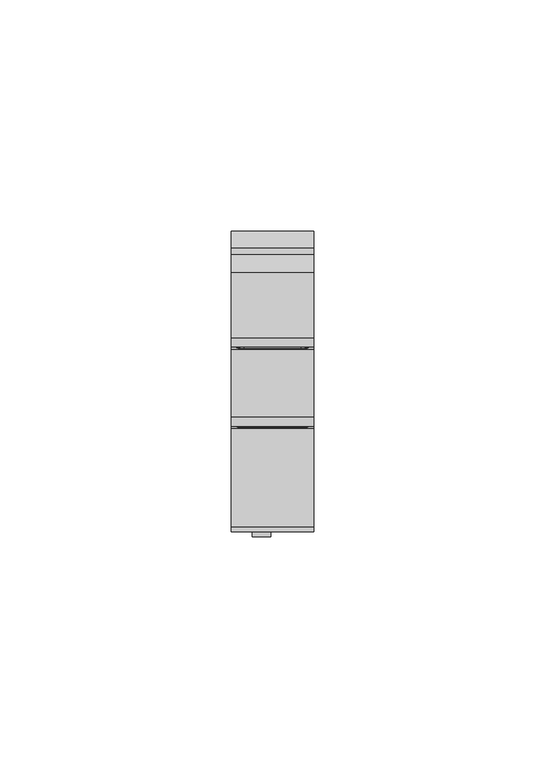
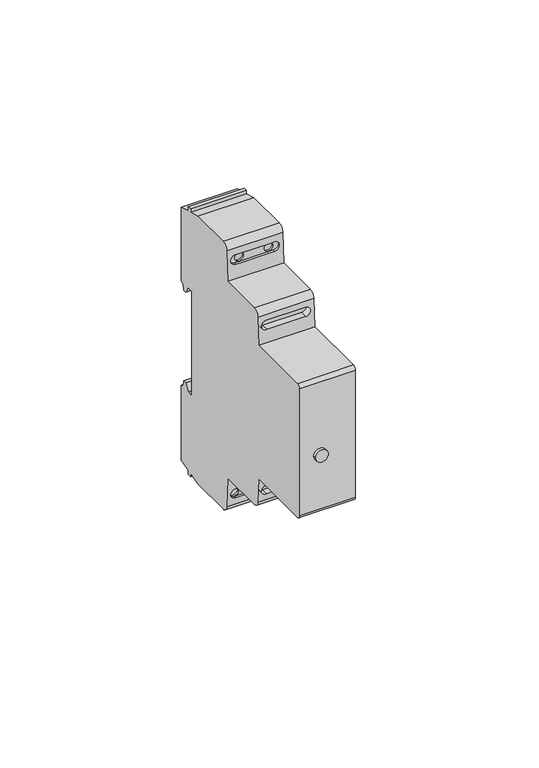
"""IFC4 building model written with IfcOpenShell, lengths in millimetres: proxy geometry, TDM_РЕЛЕ ИМПУЛЬСНОЕ (ОСВЕЩЕНИЕ) РИО : РИО-2 10А."""

from ifc_helpers import new_model, si_unit, point, frame, frame_2d, origin, place, context, project, spatial, polyline, circle_curve, ellipse_curve, trimmed, segment, composite_curve, outline, extrude, source, transform, mapped, element, save
from ifc_brep_helpers import plane_surface, cylinder_surface, revolved_surface, advanced_brep


def electrical_equipment_2618eebc(model_context):
    return source(origin(), model_context, "Body", "SolidModel", [
        extrude(outline(composite_curve([segment(trimmed(circle_curve(frame_2d((-3.3756041, -2.34375)), 2.0), [point((-3.3756041, -4.34375))], [point((-3.3756041, -0.34375))], False, "CARTESIAN"), True, "CONTINUOUS"), segment(trimmed(circle_curve(frame_2d((-3.3756041, -2.34375)), 2.0), [point((-3.3756041, -0.34375))], [point((-3.3756041, -4.34375))], False, "CARTESIAN"), True, "CONTINUOUS")], self_intersect=False)), frame((0.0, -28.520508, 0.0), z_axis=(0.0, 1.0, 0.0), x_axis=(0.0, 0.0, 1.0)), (0.0, 0.0, 1.0), 1.020508),
        extrude(outline(polyline([(14.1138713, 30.3732323), (14.1138713, 43.7501081), (16.6821204, 43.7501081), (16.6821204, -44.0625), (14.1138713, -44.0625), (14.1138713, 23.4004542), (-1.4600795, 23.4004542), (-1.4600795, 30.3732323), (14.1138713, 30.3732323)])), frame((-7.75, 0.0, 0.0), z_axis=(1.0, 0.0, 0.0), x_axis=(0.0, 1.0, 0.0)), (0.0, 0.0, 1.0), 15.5),
        advanced_brep(
        [(8.9, 31.7632568, 17.7057143), (8.9, 33.7632568, 17.7057143), (8.9, 35.0790621, 15.4266726), (8.9, 36.2042493, 15.4266726), (8.9, 36.5256071, 17.2491835), (8.9, 37.5, 17.8117495), (8.9, 37.5, 42.6031417), (8.9, 33.7858621, 43.5983419), (8.9, 33.7858621, 45.0), (8.9, 32.5, 45.0), (8.9, 32.5, 43.9428876), (8.9, 28.5548029, 45.0), (8.9, 14.5, 45.0), (8.9, 12.5, 43.0), (8.9, 11.9790691, 33.0600462), (8.9, -2.6020709, 33.0600462), (8.9, -4.5993299, 31.1647181), (8.9, -5.0796325, 22.0), (8.9, -26.3777313, 22.0), (8.9, -27.5, 20.8777313), (8.9, -27.5, -21.8875602), (8.9, -26.3875602, -23.0), (8.9, -5.0272247, -23.0), (8.9, -4.5993299, -31.1647181), (8.9, -2.6020709, -33.0600462), (8.9, 11.9790691, -33.0600462), (8.9, 12.5, -43.0), (8.9, 14.5, -45.0), (8.9, 28.5548029, -45.0), (8.9, 32.5, -43.9428876), (8.9, 32.5, -45.0), (8.9, 33.7858621, -45.0), (8.9, 33.7858621, -43.5983419), (8.9, 37.5, -42.6031417), (8.9, 37.5, -17.4003208), (8.9, 36.5256071, -16.8377548), (8.9, 36.2042493, -15.0152439), (8.9, 35.0790621, -15.0152439), (8.9, 33.7632568, -17.2942857), (8.9, 31.7632568, -17.2942857), (-8.9, 31.7632568, 17.7057143), (-8.9, 31.7632568, -17.2942857), (-8.9, 33.7632568, -17.2942857), (-8.9, 35.0790621, -15.0152439), (-8.9, 36.2042493, -15.0152439), (-8.9, 36.5256071, -16.8377548), (-8.9, 37.5, -17.4003208), (-8.9, 37.5, -42.6031417), (-8.9, 33.7858621, -43.5983419), (-8.9, 33.7858621, -45.0), (-8.9, 32.5, -45.0), (-8.9, 32.5, -43.9428876), (-8.9, 28.5548029, -45.0), (-8.9, 14.5, -45.0), (-8.9, 12.5, -43.0), (-8.9, 11.9790691, -33.0600462), (-8.9, -2.6020709, -33.0600462), (-8.9, -4.5993299, -31.1647181), (-8.9, -5.0272247, -23.0), (-8.9, -26.3875602, -23.0), (-8.9, -27.5, -21.8875602), (-8.9, -27.5, 20.8777313), (-8.9, -26.3777313, 22.0), (-8.9, -5.0796325, 22.0), (-8.9, -4.5993299, 31.1647181), (-8.9, -2.6020709, 33.0600462), (-8.9, 11.9790691, 33.0600462), (-8.9, 12.5, 43.0), (-8.9, 14.5, 45.0), (-8.9, 28.5548029, 45.0), (-8.9, 32.5, 43.9428876), (-8.9, 32.5, 45.0), (-8.9, 33.7858621, 45.0), (-8.9, 33.7858621, 43.5983419), (-8.9, 37.5, 42.6031417), (-8.9, 37.5, 17.8117495), (-8.9, 36.5256071, 17.2491835), (-8.9, 36.2042493, 15.4266726), (-8.9, 35.0790621, 15.4266726), (-8.9, 33.7632568, 17.7057143), (6.25, 13.0378948, 37.8135116), (6.25, 13.0378948, 40.8135116), (4.6875, 13.0378948, 40.8135116), (6.1875, 13.0378948, 39.3135116), (4.6875, 13.0378948, 37.8135116), (-6.25, 13.0378948, 40.8135116), (-6.25, 13.0378948, 37.8135116), (-4.6875, 13.0378948, 37.8135116), (-6.1875, 13.0378948, 39.3135116), (-4.6875, 13.0378948, 40.8135116), (-3.1875, 13.0378948, 39.3135116), (3.1875, 13.0378948, 39.3135116), (6.25, 13.0378948, -37.8135116), (-6.25, 13.0378948, -37.8135116), (-4.75, 13.0378948, -39.3135116), (-6.25, 13.0378948, -40.8135116), (6.25, 13.0378948, -40.8135116), (4.75, 13.0378948, -39.3135116), (6.25, 12.385411, 40.8135116), (6.25, 12.2281877, 37.8135116), (4.6875, 12.2281877, 37.8135116), (-4.6875, 12.2281877, 37.8135116), (-6.25, 12.2281877, 37.8135116), (-6.25, 12.385411, 40.8135116), (-4.6875, 12.385411, 40.8135116), (4.6875, 12.385411, 40.8135116), (6.25, -4.7022977, 29.1999754), (6.25, -4.8595211, 26.1999754), (-6.25, -4.8595211, 26.1999754), (-6.25, -4.7022977, 29.1999754), (-6.25, -4.8595211, -26.1999754), (6.25, -4.8595211, -26.1999754), (6.25, -4.7022977, -29.1999754), (-6.25, -4.7022977, -29.1999754), (-6.25, 12.2281877, -37.8135116), (6.25, 12.2281877, -37.8135116), (7.75, 12.3067993, -39.3135116), (6.25, 12.385411, -40.8135116), (-6.25, 12.385411, -40.8135116), (-7.75, 12.3067993, -39.3135116), (-7.75, 13.0378948, -39.3135116), (7.75, 13.0378948, -39.3135116), (-4.75, 15.2465164, -39.3135116), (-7.75, 15.2465164, -39.3135116), (4.75, 15.2465164, -39.3135116), (7.75, 15.2465164, -39.3135116), (-3.1875, 15.2465164, 39.3135116), (-6.1875, 15.2465164, 39.3135116), (3.1875, 15.2465164, 39.3135116), (6.1875, 15.2465164, 39.3135116), (6.25, -2.4542234, -26.1999754), (-6.25, -2.4542234, -26.1999754), (-6.25, -2.4542234, -29.1999754), (6.25, -2.4542234, -29.1999754), (6.25, -2.4542234, 26.1999754), (6.25, -2.4542234, 29.1999754), (-6.25, -2.4542234, 29.1999754), (-6.25, -2.4542234, 26.1999754)],
        [
            (0, 1),
            (1, 2),
            (2, 3),
            (3, 4),
            (4, 5),
            (5, 6),
            (6, 7),
            (7, 8),
            (8, 9),
            (9, 10),
            (10, 11),
            (11, 12),
            (12, 13, circle_curve(frame((8.9, 14.5, 43.0), z_axis=(1.0, 0.0, 0.0), x_axis=(0.0, -1.0, 0.0)), 2.0)),
            (13, 14),
            (14, 15),
            (15, 16, circle_curve(frame((8.9, -2.6020709, 31.0600462), z_axis=(1.0, 0.0, 0.0), x_axis=(0.0, -1.0, 0.0)), 2.0)),
            (16, 17),
            (17, 18),
            (18, 19, circle_curve(frame((8.9, -26.3777313, 20.8777313), z_axis=(1.0, 0.0, 0.0), x_axis=(0.0, -1.0, 0.0)), 1.1222687)),
            (19, 20),
            (20, 21, circle_curve(frame((8.9, -26.3875602, -21.8875602), z_axis=(1.0, 0.0, 0.0), x_axis=(0.0, -1.0, 0.0)), 1.1124398)),
            (21, 22),
            (22, 23),
            (23, 24, circle_curve(frame((8.9, -2.6020709, -31.0600462), z_axis=(1.0, 0.0, 0.0), x_axis=(0.0, -1.0, 0.0)), 2.0)),
            (24, 25),
            (25, 26),
            (26, 27, circle_curve(frame((8.9, 14.5, -43.0), z_axis=(1.0, 0.0, 0.0), x_axis=(0.0, -1.0, 0.0)), 2.0)),
            (27, 28),
            (28, 29),
            (29, 30),
            (30, 31),
            (31, 32),
            (32, 33),
            (33, 34),
            (34, 35),
            (35, 36),
            (36, 37),
            (37, 38),
            (38, 39),
            (39, 0),
            (40, 41),
            (41, 42),
            (42, 43),
            (43, 44),
            (44, 45),
            (45, 46),
            (46, 47),
            (47, 48),
            (48, 49),
            (49, 50),
            (50, 51),
            (51, 52),
            (52, 53),
            (53, 54, circle_curve(frame((-8.9, 14.5, -43.0), z_axis=(-1.0, 0.0, 0.0), x_axis=(0.0, -1.0, 0.0)), 2.0)),
            (54, 55),
            (55, 56),
            (56, 57, circle_curve(frame((-8.9, -2.6020709, -31.0600462), z_axis=(-1.0, 0.0, 0.0), x_axis=(0.0, -1.0, 0.0)), 2.0)),
            (57, 58),
            (58, 59),
            (59, 60, circle_curve(frame((-8.9, -26.3875602, -21.8875602), z_axis=(-1.0, 0.0, 0.0), x_axis=(0.0, -1.0, 0.0)), 1.1124398)),
            (60, 61),
            (61, 62, circle_curve(frame((-8.9, -26.3777313, 20.8777313), z_axis=(-1.0, 0.0, 0.0), x_axis=(0.0, -1.0, 0.0)), 1.1222687)),
            (62, 63),
            (63, 64),
            (64, 65, circle_curve(frame((-8.9, -2.6020709, 31.0600462), z_axis=(-1.0, 0.0, 0.0), x_axis=(0.0, -1.0, 0.0)), 2.0)),
            (65, 66),
            (66, 67),
            (67, 68, circle_curve(frame((-8.9, 14.5, 43.0), z_axis=(-1.0, 0.0, 0.0), x_axis=(0.0, -1.0, 0.0)), 2.0)),
            (68, 69),
            (69, 70),
            (70, 71),
            (71, 72),
            (72, 73),
            (73, 74),
            (74, 75),
            (75, 76),
            (76, 77),
            (77, 78),
            (78, 79),
            (79, 40),
            (80, 81, circle_curve(frame((6.25, 13.0378948, 39.3135116), z_axis=(0.0, -1.0, 0.0), x_axis=(1.0, 0.0, 0.0)), 1.5)),
            (81, 82),
            (82, 83, circle_curve(frame((4.6875, 13.0378948, 39.3135116), z_axis=(0.0, 1.0, 0.0), x_axis=(1.0, 0.0, 0.0)), 1.5)),
            (83, 84, circle_curve(frame((4.6875, 13.0378948, 39.3135116), z_axis=(0.0, 1.0, 0.0), x_axis=(1.0, 0.0, 0.0)), 1.5)),
            (84, 80),
            (85, 86, circle_curve(frame((-6.25, 13.0378948, 39.3135116), z_axis=(0.0, -1.0, 0.0), x_axis=(-1.0, 0.0, 0.0)), 1.5)),
            (86, 87),
            (87, 88, circle_curve(frame((-4.6875, 13.0378948, 39.3135116), z_axis=(0.0, 1.0, 0.0), x_axis=(-1.0, 0.0, 0.0)), 1.5)),
            (88, 89, circle_curve(frame((-4.6875, 13.0378948, 39.3135116), z_axis=(0.0, 1.0, 0.0), x_axis=(-1.0, 0.0, 0.0)), 1.5)),
            (89, 85),
            (82, 89),
            (89, 90, circle_curve(frame((-4.6875, 13.0378948, 39.3135116), z_axis=(0.0, 1.0, 0.0), x_axis=(-1.0, 0.0, 0.0)), 1.5)),
            (90, 87, circle_curve(frame((-4.6875, 13.0378948, 39.3135116), z_axis=(0.0, 1.0, 0.0), x_axis=(-1.0, 0.0, 0.0)), 1.5)),
            (87, 84),
            (84, 91, circle_curve(frame((4.6875, 13.0378948, 39.3135116), z_axis=(0.0, 1.0, 0.0), x_axis=(1.0, 0.0, 0.0)), 1.5)),
            (91, 82, circle_curve(frame((4.6875, 13.0378948, 39.3135116), z_axis=(0.0, 1.0, 0.0), x_axis=(1.0, 0.0, 0.0)), 1.5)),
            (92, 93),
            (93, 94, circle_curve(frame((-6.25, 13.0378948, -39.3135116), z_axis=(0.0, 1.0, 0.0), x_axis=(-1.0, 0.0, 0.0)), 1.5)),
            (94, 95, circle_curve(frame((-6.25, 13.0378948, -39.3135116), z_axis=(0.0, 1.0, 0.0), x_axis=(-1.0, 0.0, 0.0)), 1.5)),
            (95, 96),
            (96, 97, circle_curve(frame((6.25, 13.0378948, -39.3135116), z_axis=(0.0, 1.0, 0.0), x_axis=(1.0, 0.0, 0.0)), 1.5)),
            (97, 92, circle_curve(frame((6.25, 13.0378948, -39.3135116), z_axis=(0.0, 1.0, 0.0), x_axis=(1.0, 0.0, 0.0)), 1.5)),
            (0, 40),
            (79, 1),
            (78, 2),
            (77, 3),
            (76, 4),
            (75, 5),
            (74, 6),
            (11, 69),
            (68, 12),
            (67, 13),
            (66, 14),
            (98, 99, ellipse_curve(frame((6.25, 12.3067993, 39.3135116), z_axis=(0.0, 0.9986295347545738, -0.052335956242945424), x_axis=(0.0, -0.052335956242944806, -0.9986295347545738)), 1.5020585, 1.5)),
            (99, 100),
            (100, 101),
            (101, 102),
            (102, 103, ellipse_curve(frame((-6.25, 12.3067993, 39.3135116), z_axis=(0.0, 0.9986295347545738, -0.052335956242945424), x_axis=(0.0, -0.052335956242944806, -0.9986295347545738)), 1.5020585, 1.5)),
            (103, 104),
            (104, 105),
            (105, 98),
            (65, 15),
            (64, 16),
            (63, 17),
            (106, 107, ellipse_curve(frame((6.25, -4.7809094, 27.6999754), z_axis=(0.0, 0.9986295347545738, -0.052335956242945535), x_axis=(0.0, -0.0523359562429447, -0.9986295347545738)), 1.5020585, 1.5)),
            (107, 108),
            (108, 109, ellipse_curve(frame((-6.25, -4.7809094, 27.6999754), z_axis=(0.0, 0.9986295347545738, -0.052335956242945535), x_axis=(0.0, -0.0523359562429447, -0.9986295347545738)), 1.5020585, 1.5)),
            (109, 106),
            (62, 18),
            (61, 19),
            (60, 20),
            (21, 59),
            (58, 22),
            (57, 23),
            (110, 111),
            (111, 112, ellipse_curve(frame((6.25, -4.7809094, -27.6999754), z_axis=(0.0, 0.9986295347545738, 0.05233595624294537), x_axis=(0.0, -0.05233595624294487, 0.9986295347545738)), 1.5020585, 1.5)),
            (112, 113),
            (113, 110, ellipse_curve(frame((-6.25, -4.7809094, -27.6999754), z_axis=(0.0, 0.9986295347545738, 0.05233595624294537), x_axis=(0.0, -0.05233595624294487, 0.9986295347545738)), 1.5020585, 1.5)),
            (56, 24),
            (55, 25),
            (54, 26),
            (114, 115),
            (115, 116, ellipse_curve(frame((6.25, 12.3067993, -39.3135116), z_axis=(0.0, 0.9986295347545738, 0.05233595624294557), x_axis=(0.0, -0.05233595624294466, 0.9986295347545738)), 1.5020585, 1.5)),
            (116, 117, ellipse_curve(frame((6.25, 12.3067993, -39.3135116), z_axis=(0.0, 0.9986295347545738, 0.05233595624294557), x_axis=(0.0, -0.05233595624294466, 0.9986295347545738)), 1.5020585, 1.5)),
            (117, 118),
            (118, 119, ellipse_curve(frame((-6.25, 12.3067993, -39.3135116), z_axis=(0.0, 0.9986295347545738, 0.05233595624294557), x_axis=(0.0, -0.05233595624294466, 0.9986295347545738)), 1.5020585, 1.5)),
            (119, 114, ellipse_curve(frame((-6.25, 12.3067993, -39.3135116), z_axis=(0.0, 0.9986295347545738, 0.05233595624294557), x_axis=(0.0, -0.05233595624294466, 0.9986295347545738)), 1.5020585, 1.5)),
            (53, 27),
            (52, 28),
            (30, 50),
            (49, 31),
            (48, 32),
            (51, 29),
            (33, 47),
            (46, 34),
            (45, 35),
            (44, 36),
            (43, 37),
            (42, 38),
            (41, 39),
            (92, 115),
            (114, 93),
            (118, 95),
            (95, 120, circle_curve(frame((-6.25, 13.0378948, -39.3135116), z_axis=(0.0, 1.0, 0.0), x_axis=(-1.0, 0.0, 0.0)), 1.5)),
            (120, 93, circle_curve(frame((-6.25, 13.0378948, -39.3135116), z_axis=(0.0, 1.0, 0.0), x_axis=(-1.0, 0.0, 0.0)), 1.5)),
            (117, 96),
            (92, 121, circle_curve(frame((6.25, 13.0378948, -39.3135116), z_axis=(0.0, 1.0, 0.0), x_axis=(1.0, 0.0, 0.0)), 1.5)),
            (121, 96, circle_curve(frame((6.25, 13.0378948, -39.3135116), z_axis=(0.0, 1.0, 0.0), x_axis=(1.0, 0.0, 0.0)), 1.5)),
            (80, 99),
            (98, 81),
            (103, 85),
            (102, 86),
            (122, 123, circle_curve(frame((-6.25, 15.2465164, -39.3135116), z_axis=(0.0, -1.0, 0.0), x_axis=(-1.0, 0.0, 0.0)), 1.5)),
            (123, 122, circle_curve(frame((-6.25, 15.2465164, -39.3135116), z_axis=(0.0, -1.0, 0.0), x_axis=(-1.0, 0.0, 0.0)), 1.5)),
            (124, 125, circle_curve(frame((6.25, 15.2465164, -39.3135116), z_axis=(0.0, -1.0, 0.0), x_axis=(1.0, 0.0, 0.0)), 1.5)),
            (125, 124, circle_curve(frame((6.25, 15.2465164, -39.3135116), z_axis=(0.0, -1.0, 0.0), x_axis=(1.0, 0.0, 0.0)), 1.5)),
            (126, 127, circle_curve(frame((-4.6875, 15.2465164, 39.3135116), z_axis=(0.0, -1.0, 0.0), x_axis=(-1.0, 0.0, 0.0)), 1.5)),
            (127, 126, circle_curve(frame((-4.6875, 15.2465164, 39.3135116), z_axis=(0.0, -1.0, 0.0), x_axis=(-1.0, 0.0, 0.0)), 1.5)),
            (128, 129, circle_curve(frame((4.6875, 15.2465164, 39.3135116), z_axis=(0.0, -1.0, 0.0), x_axis=(1.0, 0.0, 0.0)), 1.5)),
            (129, 128, circle_curve(frame((4.6875, 15.2465164, 39.3135116), z_axis=(0.0, -1.0, 0.0), x_axis=(1.0, 0.0, 0.0)), 1.5)),
            (122, 94),
            (120, 123),
            (124, 97),
            (121, 125),
            (126, 90),
            (88, 127),
            (128, 91),
            (83, 129),
            (73, 7),
            (72, 8),
            (71, 9),
            (70, 10),
            (130, 131),
            (131, 132, circle_curve(frame((-6.25, -2.4542234, -27.6999754), z_axis=(0.0, -1.0, 0.0), x_axis=(-1.0, 0.0, 0.0)), 1.5)),
            (132, 133),
            (133, 130, circle_curve(frame((6.25, -2.4542234, -27.6999754), z_axis=(0.0, -1.0, 0.0), x_axis=(1.0, 0.0, 0.0)), 1.5)),
            (134, 135, circle_curve(frame((6.25, -2.4542234, 27.6999754), z_axis=(0.0, -1.0, 0.0), x_axis=(1.0, 0.0, 0.0)), 1.5)),
            (135, 136),
            (136, 137, circle_curve(frame((-6.25, -2.4542234, 27.6999754), z_axis=(0.0, -1.0, 0.0), x_axis=(-1.0, 0.0, 0.0)), 1.5)),
            (137, 134),
            (130, 111),
            (110, 131),
            (113, 132),
            (112, 133),
            (134, 107),
            (106, 135),
            (109, 136),
            (108, 137),
        ],
        [
            plane_surface(frame((8.9, 31.7632568, 17.7057143), z_axis=(1.0, 0.0, 0.0), x_axis=(0.0, 1.0, 0.0))),
            plane_surface(frame((-8.9, 31.7632568, 17.7057143), z_axis=(-1.0, 0.0, 0.0), x_axis=(0.0, -1.0, 0.0))),
            plane_surface(frame((-7.75, 13.0378948, -37.8135116), z_axis=(0.0, -1.0, 0.0), x_axis=(1.0, 0.0, 0.0))),
            plane_surface(frame((8.9, 31.7632568, 17.7057143), z_axis=(0.0, 0.0, -1.0), x_axis=(-1.0, 0.0, 0.0))),
            plane_surface(frame((8.9, 33.7632568, 17.7057143), z_axis=(0.0, -0.8660254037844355, -0.5000000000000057), x_axis=(-1.0, 0.0, 0.0))),
            plane_surface(frame((8.9, 35.0790621, 15.4266726), z_axis=(0.0, 0.0, -1.0), x_axis=(-1.0, 0.0, 0.0))),
            plane_surface(frame((8.9, 36.2042493, 15.4266726), z_axis=(0.0, 0.984807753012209, -0.17364817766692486), x_axis=(-1.0, 0.0, 0.0))),
            plane_surface(frame((8.9, 36.5256071, 17.2491835), z_axis=(0.0, 0.5000000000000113, -0.8660254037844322), x_axis=(-1.0, 0.0, 0.0))),
            plane_surface(frame((8.9, 37.5, 17.8117495), z_axis=(0.0, 1.0, 0.0), x_axis=(-1.0, 0.0, 0.0))),
            plane_surface(frame((8.9, 28.5548029, 45.0), z_axis=(0.0, 0.0, 1.0), x_axis=(-1.0, 0.0, 0.0))),
            cylinder_surface(frame((-8.9, 14.5, 43.0), z_axis=(1.0, 0.0, 0.0), x_axis=(0.0, -1.0, 0.0)), 2.0),
            plane_surface(frame((8.9, 12.5, 43.0), z_axis=(0.0, -0.9986295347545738, 0.052335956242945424), x_axis=(-1.0, 0.0, 0.0))),
            plane_surface(frame((8.9, 11.9790691, 33.0600462), z_axis=(0.0, 0.0, 1.0), x_axis=(-1.0, 0.0, 0.0))),
            cylinder_surface(frame((-8.9, -2.6020709, 31.0600462), z_axis=(1.0, 0.0, 0.0), x_axis=(0.0, -1.0, 0.0)), 2.0),
            plane_surface(frame((8.9, -4.5993299, 31.1647181), z_axis=(0.0, -0.9986295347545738, 0.052335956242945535), x_axis=(-1.0, 0.0, 0.0))),
            plane_surface(frame((8.9, -5.0796325, 22.0), z_axis=(0.0, 0.0, 1.0), x_axis=(-1.0, 0.0, 0.0))),
            cylinder_surface(frame((-8.9, -26.3777313, 20.8777313), z_axis=(1.0, 0.0, 0.0), x_axis=(0.0, -1.0, 0.0)), 1.1222687),
            plane_surface(frame((8.9, -27.5, 20.8777313), z_axis=(0.0, -1.0, 0.0), x_axis=(-1.0, 0.0, 0.0))),
            plane_surface(frame((8.9, -26.3875602, -23.0), z_axis=(0.0, 0.0, -1.0), x_axis=(-1.0, 0.0, 0.0))),
            plane_surface(frame((8.9, -5.0272247, -23.0), z_axis=(0.0, -0.9986295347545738, -0.05233595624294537), x_axis=(-1.0, 0.0, 0.0))),
            cylinder_surface(frame((-8.9, -2.6020709, -31.0600462), z_axis=(1.0, 0.0, 0.0), x_axis=(0.0, -1.0, 0.0)), 2.0),
            plane_surface(frame((8.9, -2.6020709, -33.0600462), z_axis=(0.0, 0.0, -1.0), x_axis=(-1.0, 0.0, 0.0))),
            plane_surface(frame((8.9, 11.9790691, -33.0600462), z_axis=(0.0, -0.9986295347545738, -0.05233595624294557), x_axis=(-1.0, 0.0, 0.0))),
            cylinder_surface(frame((-8.9, 14.5, -43.0), z_axis=(1.0, 0.0, 0.0), x_axis=(0.0, -1.0, 0.0)), 2.0),
            plane_surface(frame((8.9, 14.5, -45.0), z_axis=(0.0, 0.0, -1.0), x_axis=(-1.0, 0.0, 0.0))),
            plane_surface(frame((8.9, 32.5, -45.0), z_axis=(0.0, 0.0, -1.0), x_axis=(-1.0, 0.0, 0.0))),
            plane_surface(frame((8.9, 33.7858621, -45.0), z_axis=(0.0, 1.0, 0.0), x_axis=(-1.0, 0.0, 0.0))),
            plane_surface(frame((8.9, 28.5548029, -45.0), z_axis=(0.0, 0.25881904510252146, -0.9659258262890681), x_axis=(-1.0, 0.0, 0.0))),
            plane_surface(frame((8.9, 37.5, -42.6031417), z_axis=(0.0, 1.0, 0.0), x_axis=(-1.0, 0.0, 0.0))),
            plane_surface(frame((8.9, 37.5, -17.4003208), z_axis=(0.0, 0.5000000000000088, 0.8660254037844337), x_axis=(-1.0, 0.0, 0.0))),
            plane_surface(frame((8.9, 36.5256071, -16.8377548), z_axis=(0.0, 0.9848077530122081, 0.17364817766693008), x_axis=(-1.0, 0.0, 0.0))),
            plane_surface(frame((8.9, 36.2042493, -15.0152439), z_axis=(0.0, 0.0, 1.0), x_axis=(-1.0, 0.0, 0.0))),
            plane_surface(frame((8.9, 35.0790621, -15.0152439), z_axis=(0.0, -0.8660254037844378, 0.5000000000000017), x_axis=(-1.0, 0.0, 0.0))),
            plane_surface(frame((8.9, 33.7632568, -17.2942857), z_axis=(0.0, 0.0, 1.0), x_axis=(-1.0, 0.0, 0.0))),
            plane_surface(frame((8.9, 31.7632568, -17.2942857), z_axis=(0.0, 1.0, 0.0), x_axis=(-1.0, 0.0, 0.0))),
            cylinder_surface(frame((-8.9, -26.3875602, -21.8875602), z_axis=(1.0, 0.0, 0.0), x_axis=(0.0, -1.0, 0.0)), 1.1124398),
            plane_surface(frame((6.25, 0.0, -37.8135116), z_axis=(0.0, 0.0, -1.0), x_axis=(0.0, 1.0, 0.0))),
            revolved_surface(polyline([(-7.75, 12.228187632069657, -39.3135116), (-7.75, 13.0378948, -39.3135116)]), (-6.25, 13.0378948, -39.3135116), (0.0, -1.0, 0.0)),
            plane_surface(frame((-6.25, 0.0, -40.8135116), z_axis=(0.0, 0.0, 1.0), x_axis=(0.0, 1.0, 0.0))),
            revolved_surface(polyline([(7.75, 12.228187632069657, -39.3135116), (7.75, 13.0378948, -39.3135116)]), (6.25, 13.0378948, -39.3135116), (0.0, -1.0, 0.0)),
            revolved_surface(polyline([(7.75, 12.228187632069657, 39.3135116), (7.75, 13.0378948, 39.3135116)]), (6.25, 0.0, 39.3135116), (0.0, -1.0, 0.0)),
            plane_surface(frame((6.25, 0.0, 40.8135116), z_axis=(0.0, 0.0, -1.0), x_axis=(0.0, 1.0, 0.0))),
            revolved_surface(polyline([(-7.75, 12.228187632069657, 39.3135116), (-7.75, 13.0378948, 39.3135116)]), (-6.25, 0.0, 39.3135116), (0.0, -1.0, 0.0)),
            plane_surface(frame((-6.25, 0.0, 37.8135116), z_axis=(0.0, 0.0, 1.0), x_axis=(0.0, 1.0, 0.0))),
            plane_surface(frame((-7.75, 15.2465164, -39.3135116), z_axis=(0.0, -1.0, 0.0), x_axis=(0.0, 0.0, 1.0))),
            revolved_surface(polyline([(-7.75, 13.0378948, -39.3135116), (-7.75, 15.2465164, -39.3135116)]), (-6.25, 15.2465164, -39.3135116), (0.0, -1.0, 0.0)),
            revolved_surface(polyline([(7.75, 13.0378948, -39.3135116), (7.75, 15.2465164, -39.3135116)]), (6.25, 0.0, -39.3135116), (0.0, -1.0, 0.0)),
            revolved_surface(polyline([(-6.1875, 13.0378948, 39.3135116), (-6.1875, 15.2465164, 39.3135116)]), (-4.6875, 0.0, 39.3135116), (0.0, -1.0, 0.0)),
            revolved_surface(polyline([(6.1875, 13.0378948, 39.3135116), (6.1875, 15.2465164, 39.3135116)]), (4.6875, 0.0, 39.3135116), (0.0, -1.0, 0.0)),
            plane_surface(frame((8.9, 32.5, -43.9428876), z_axis=(0.0, -1.0, 0.0), x_axis=(-1.0, 0.0, 0.0))),
            plane_surface(frame((8.9, 33.7858621, -43.5983419), z_axis=(0.0, 0.25881904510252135, -0.9659258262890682), x_axis=(-1.0, 0.0, 0.0))),
            plane_surface(frame((8.9, 37.5, 42.6031417), z_axis=(0.0, 0.2588190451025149, 0.96592582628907), x_axis=(-1.0, 0.0, 0.0))),
            plane_surface(frame((8.9, 33.7858621, 43.5983419), z_axis=(0.0, 1.0, 0.0), x_axis=(-1.0, 0.0, 0.0))),
            plane_surface(frame((8.9, 33.7858621, 45.0), z_axis=(0.0, 0.0, 1.0), x_axis=(-1.0, 0.0, 0.0))),
            plane_surface(frame((8.9, 32.5, 45.0), z_axis=(0.0, -1.0, 0.0), x_axis=(-1.0, 0.0, 0.0))),
            plane_surface(frame((8.9, 32.5, 43.9428876), z_axis=(0.0, 0.25881904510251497, 0.9659258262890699), x_axis=(-1.0, 0.0, 0.0))),
            plane_surface(frame((-7.75, -2.4542234, -26.1999754), z_axis=(0.0, -1.0, 0.0), x_axis=(1.0, 0.0, 0.0))),
            plane_surface(frame((6.25, -7.6444842, -26.1999754), z_axis=(0.0, 0.0, -1.0), x_axis=(0.0, 1.0, 0.0))),
            revolved_surface(polyline([(-7.75, -4.8595211, -27.6999754), (-7.75, -2.4542234, -27.6999754)]), (-6.25, -2.4542234, -27.6999754), (0.0, -1.0, 0.0)),
            plane_surface(frame((-6.25, -7.6444842, -29.1999754), z_axis=(0.0, 0.0, 1.0), x_axis=(0.0, 1.0, 0.0))),
            revolved_surface(polyline([(7.75, -4.8595211, -27.6999754), (7.75, -2.4542234, -27.6999754)]), (6.25, -2.4542234, -27.6999754), (0.0, -1.0, 0.0)),
            revolved_surface(polyline([(7.75, -4.8595211, 27.6999754), (7.75, -2.4542234, 27.6999754)]), (6.25, 0.0, 27.6999754), (0.0, -1.0, 0.0)),
            plane_surface(frame((6.25, -7.6444842, 29.1999754), z_axis=(0.0, 0.0, -1.0), x_axis=(0.0, 1.0, 0.0))),
            revolved_surface(polyline([(-7.75, -4.8595211, 27.6999754), (-7.75, -2.4542234, 27.6999754)]), (-6.25, 0.0, 27.6999754), (0.0, -1.0, 0.0)),
            plane_surface(frame((-6.25, -7.6444842, 26.1999754), z_axis=(0.0, 0.0, 1.0), x_axis=(0.0, 1.0, 0.0))),
        ],
        [
            (0, [[1, 2, 3, 4, 5, 6, 7, 8, 9, 10, 11, 12, 13, 14, 15, 16, 17, 18, 19, 20, 21, 22, 23, 24, 25, 26, 27, 28, 29, 30, 31, 32, 33, 34, 35, 36, 37, 38, 39, 40]]),
            (1, [[41, 42, 43, 44, 45, 46, 47, 48, 49, 50, 51, 52, 53, 54, 55, 56, 57, 58, 59, 60, 61, 62, 63, 64, 65, 66, 67, 68, 69, 70, 71, 72, 73, 74, 75, 76, 77, 78, 79, 80]]),
            (2, [[81, 82, 83, 84, 85]]),
            (2, [[86, 87, 88, 89, 90]]),
            (2, [[91, 92, 93, 94, 95, 96]]),
            (2, [[97, 98, 99, 100, 101, 102]]),
            (3, [[-1, 103, -80, 104]]),
            (4, [[-2, -104, -79, 105]]),
            (5, [[-3, -105, -78, 106]]),
            (6, [[-4, -106, -77, 107]]),
            (7, [[-5, -107, -76, 108]]),
            (8, [[-6, -108, -75, 109]]),
            (9, [[-12, 110, -69, 111]]),
            (10, [[-13, -111, -68, 112]]),
            (11, [[-14, -112, -67, 113], [114, 115, 116, 117, 118, 119, 120, 121]]),
            (12, [[-15, -113, -66, 122]]),
            (13, [[-16, -122, -65, 123]]),
            (14, [[-17, -123, -64, 124], [125, 126, 127, 128]]),
            (15, [[-18, -124, -63, 129]]),
            (16, [[-19, -129, -62, 130]]),
            (17, [[-20, -130, -61, 131]]),
            (18, [[-22, 132, -59, 133]]),
            (19, [[-23, -133, -58, 134], [135, 136, 137, 138]]),
            (20, [[-24, -134, -57, 139]]),
            (21, [[-25, -139, -56, 140]]),
            (22, [[-26, -140, -55, 141], [142, 143, 144, 145, 146, 147]]),
            (23, [[-27, -141, -54, 148]]),
            (24, [[-28, -148, -53, 149]]),
            (25, [[-31, 150, -50, 151]]),
            (26, [[-32, -151, -49, 152]]),
            (27, [[-29, -149, -52, 153]]),
            (28, [[-34, 154, -47, 155]]),
            (29, [[-35, -155, -46, 156]]),
            (30, [[-36, -156, -45, 157]]),
            (31, [[-37, -157, -44, 158]]),
            (32, [[-38, -158, -43, 159]]),
            (33, [[-39, -159, -42, 160]]),
            (34, [[-40, -160, -41, -103]]),
            (35, [[-21, -131, -60, -132]]),
            (36, [[-97, 161, -142, 162]]),
            (37, [[-162, -147, -146, 163, 164, 165]]),
            (38, [[-100, -163, -145, 166]]),
            (39, [[-161, 167, 168, -166, -144, -143]]),
            (40, [[-81, 169, -114, 170]]),
            (41, [[-170, -121, -120, -119, 171, -90, -91, -82]]),
            (42, [[-86, -171, -118, 172]]),
            (43, [[-169, -85, -94, -87, -172, -117, -116, -115]]),
            (44, [[173, 174]]),
            (44, [[175, 176]]),
            (44, [[177, 178]]),
            (44, [[179, 180]]),
            (45, [[-173, 181, -98, -165, 182]]),
            (45, [[-174, -182, -164, -99, -181]]),
            (46, [[-175, 183, -101, -168, 184]]),
            (46, [[-176, -184, -167, -102, -183]]),
            (47, [[-177, 185, -92, -89, 186]]),
            (47, [[-178, -186, -88, -93, -185]]),
            (48, [[-179, 187, -95, -84, 188]]),
            (48, [[-180, -188, -83, -96, -187]]),
            (49, [[-30, -153, -51, -150]]),
            (50, [[-33, -152, -48, -154]]),
            (51, [[-7, -109, -74, 189]]),
            (52, [[-8, -189, -73, 190]]),
            (53, [[-9, -190, -72, 191]]),
            (54, [[-10, -191, -71, 192]]),
            (55, [[-11, -192, -70, -110]]),
            (56, [[193, 194, 195, 196]]),
            (56, [[197, 198, 199, 200]]),
            (57, [[-193, 201, -135, 202]]),
            (58, [[-194, -202, -138, 203]]),
            (59, [[-195, -203, -137, 204]]),
            (60, [[-196, -204, -136, -201]]),
            (61, [[-197, 205, -125, 206]]),
            (62, [[-198, -206, -128, 207]]),
            (63, [[-199, -207, -127, 208]]),
            (64, [[-200, -208, -126, -205]]),
        ],
    ),
    ])


if __name__ == "__main__":
    model = new_model("IFC4")
    model_context = context("Model", 3, world=origin())
    ifc_project = project(units=[si_unit("LENGTHUNIT", "METRE", prefix="MILLI")], contexts=[model_context])
    site = spatial("IfcSite", under=ifc_project)
    building = spatial("IfcBuilding", under=site)
    placement = place(None, origin())
    electrical_equipment_shape = electrical_equipment_2618eebc(model_context)
    element("IfcBuildingElementProxy", 1, Name="TDM_РЕЛЕ ИМПУЛЬСНОЕ (ОСВЕЩЕНИЕ) РИО : РИО-2 10А", ObjectType="TDM_РЕЛЕ ИМПУЛЬСНОЕ (ОСВЕЩЕНИЕ) РИО : РИО-2 10А", at=placement, inside=building, context=model_context, shape_type="MappedRepresentation", body=[
        mapped(electrical_equipment_shape, transform((0.0, 0.0, 0.0), x_axis=(1.0, 0.0, 0.0), y_axis=(0.0, 1.0, 0.0), z_axis=(0.0, 0.0, 1.0))),
    ])
    save(model, "model.ifc")
